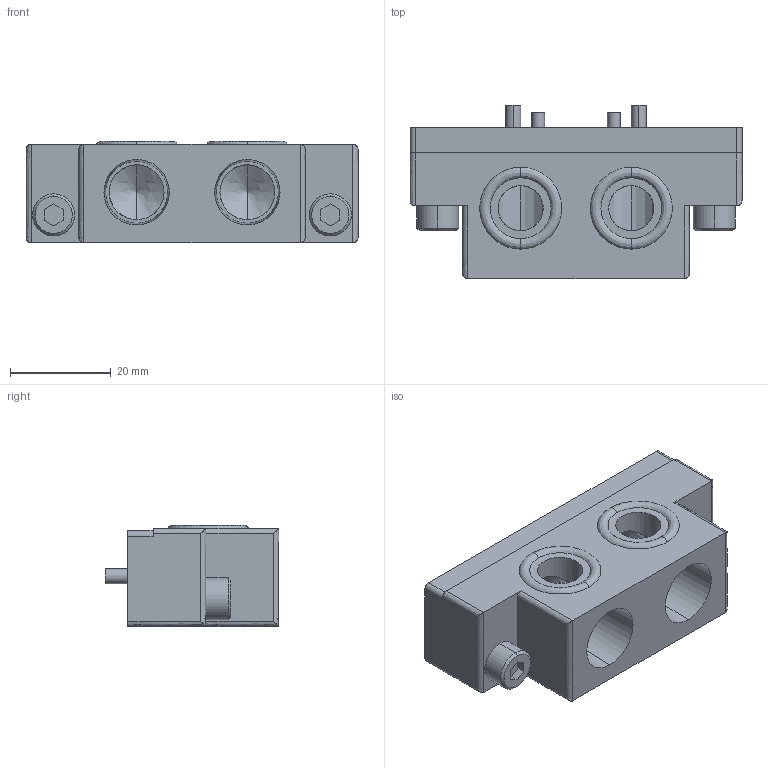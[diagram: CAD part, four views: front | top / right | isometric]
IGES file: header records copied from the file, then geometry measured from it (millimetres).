
Start section: 3D InterOp IGES (v. 2022 1.0.0), Spatial Corp. Copyright (c) 1999-2020.
Global section: file name: KHB-12~25HS-EP82_ver1.igs; native system: Spatial Corp.; preprocessor: 3D InterOp GENERIC/IGES 3.0; author: Noname; organization: Noname; date: 20260427.135145; units: millimetre
Bounding box: 66 x 34.5 x 20.1 mm (x, y, z)
Surface area: 10433.7 mm2 (no closed solid volume)
Topology: 0 solids, 0 shells, 165 faces, 738 edges, 734 vertices
Faces by surface type: revolution 89, extrusion 76
